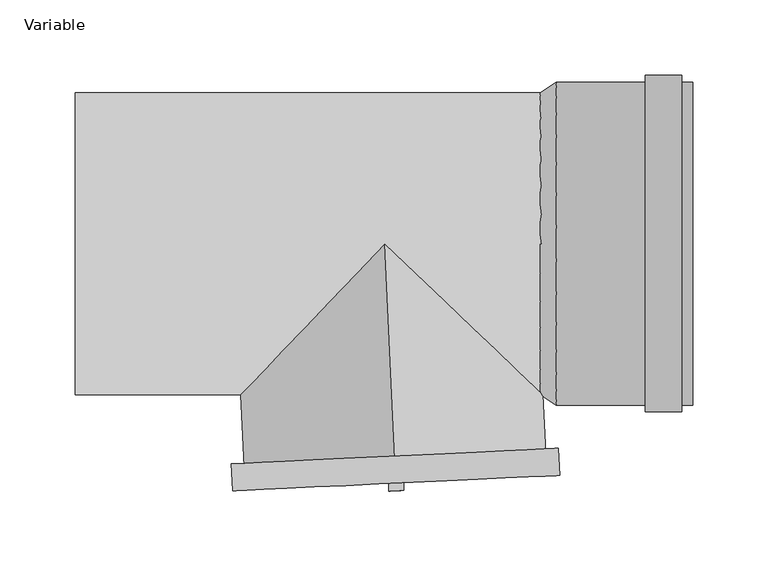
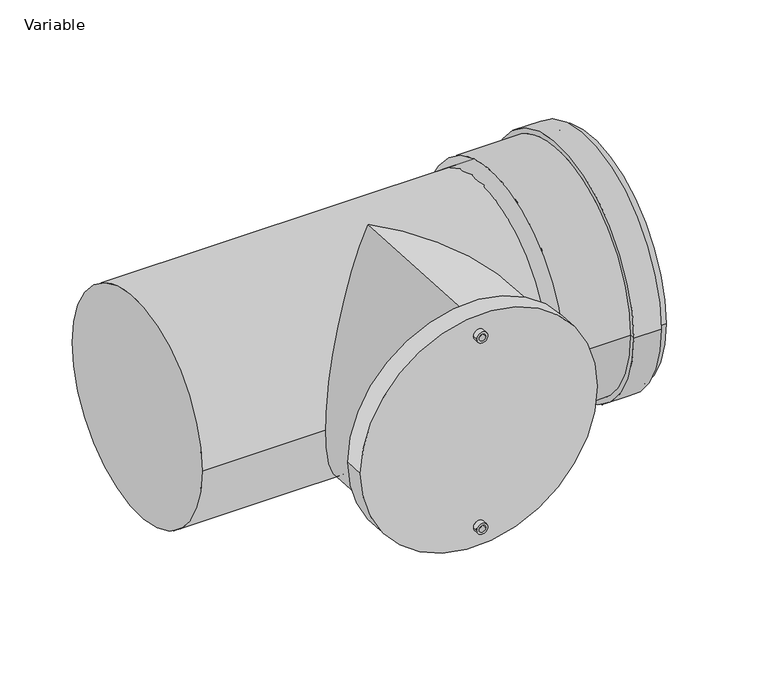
"""IFC4 building model written with IfcOpenShell, lengths in millimetres: pipe fitting geometry, AliaxisFR_Friaphon_TeeAccessPlug_FR : Variable."""

from ifc_helpers import new_model, si_unit, point, frame, frame_2d, origin, place, context, project, spatial, polyline, circle_curve, ellipse_curve, trimmed, segment, composite_curve, outline, extrude, source, transform, mapped, element, save
from ifc_brep_helpers import plane_surface, cylinder_surface, revolved_surface, advanced_brep


def variable_6f8dda88(model_context):
    return source(origin(), model_context, "Body", "SolidModel", [
        extrude(outline(composite_curve([segment(trimmed(circle_curve(frame_2d((0.0, -5.0)), 5.0), [point((0.0, -10.0))], [point((0.0, 0.0))], False, "CARTESIAN"), True, "CONTINUOUS"), segment(trimmed(circle_curve(frame_2d((0.0, -5.0)), 5.0), [point((0.0, 0.0))], [point((0.0, -10.0))], False, "CARTESIAN"), True, "CONTINUOUS")], self_intersect=False), holes=[composite_curve([segment(trimmed(circle_curve(frame_2d((0.0, -5.0)), 3.0), [point((0.0, -8.0))], [point((0.0, -2.0))], True, "CARTESIAN"), True, "CONTINUOUS"), segment(trimmed(circle_curve(frame_2d((0.0, -5.0)), 3.0), [point((0.0, -2.0))], [point((0.0, -8.0))], True, "CARTESIAN"), True, "CONTINUOUS")], self_intersect=False)]), frame((12.714019, -163.457546, 90.0), z_axis=(-0.04710645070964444, 0.9988898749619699, 0.0), x_axis=(0.0, 0.0, 1.0)), (0.0, 0.0, 1.0), 5.0),
        extrude(outline(composite_curve([segment(trimmed(circle_curve(frame_2d((-180.0, -5.0)), 5.0), [point((-180.0, -10.0))], [point((-180.0, 0.0))], False, "CARTESIAN"), True, "CONTINUOUS"), segment(trimmed(circle_curve(frame_2d((-180.0, -5.0)), 5.0), [point((-180.0, 0.0))], [point((-180.0, -10.0))], False, "CARTESIAN"), True, "CONTINUOUS")], self_intersect=False), holes=[composite_curve([segment(trimmed(circle_curve(frame_2d((-180.0, -5.0)), 3.0), [point((-180.0, -8.0))], [point((-180.0, -2.0))], True, "CARTESIAN"), True, "CONTINUOUS"), segment(trimmed(circle_curve(frame_2d((-180.0, -5.0)), 3.0), [point((-180.0, -2.0))], [point((-180.0, -8.0))], True, "CARTESIAN"), True, "CONTINUOUS")], self_intersect=False)]), frame((12.714019, -163.457546, 90.0), z_axis=(-0.04710645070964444, 0.9988898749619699, 0.0), x_axis=(0.0, 0.0, 1.0)), (0.0, 0.0, 1.0), 5.0),
        advanced_brep(
        [(-100.8955141, -163.8096788, 0.0), (115.8635888, -153.587579, 0.0), (-101.7434302, -145.829661, 0.0), (115.0156727, -135.6075612, 0.0), (-93.2528663, -145.4292562, 0.0), (106.5251087, -136.0079661, 0.0), (-92.4932747, -161.5363554, 0.0), (107.2847003, -152.1150653, 0.0)],
        [
            (0, 1, circle_curve(frame((7.4840374, -158.6986289, 0.0), z_axis=(0.04710645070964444, -0.9988898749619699, 0.0), x_axis=(0.9988898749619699, 0.04710645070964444, 0.0)), 108.5)),
            (1, 0, circle_curve(frame((7.4840374, -158.6986289, 0.0), z_axis=(0.04710645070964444, -0.9988898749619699, 0.0), x_axis=(0.9988898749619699, 0.04710645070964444, 0.0)), 108.5)),
            (2, 3, circle_curve(frame((6.6361212, -140.7186111, 0.0), z_axis=(-0.04710645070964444, 0.9988898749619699, 0.0), x_axis=(0.9988898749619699, 0.04710645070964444, 0.0)), 108.5)),
            (3, 2, circle_curve(frame((6.6361212, -140.7186111, 0.0), z_axis=(-0.04710645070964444, 0.9988898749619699, 0.0), x_axis=(0.9988898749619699, 0.04710645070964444, 0.0)), 108.5)),
            (4, 5, circle_curve(frame((6.6361212, -140.7186111, 0.0), z_axis=(0.04710645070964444, -0.9988898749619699, 0.0), x_axis=(0.9988898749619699, 0.04710645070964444, 0.0)), 100.0)),
            (5, 4, circle_curve(frame((6.6361212, -140.7186111, 0.0), z_axis=(0.04710645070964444, -0.9988898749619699, 0.0), x_axis=(0.9988898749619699, 0.04710645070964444, 0.0)), 100.0)),
            (0, 2),
            (3, 1),
            (6, 7, circle_curve(frame((7.3957128, -156.8257104, 0.0), z_axis=(-0.04710645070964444, 0.9988898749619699, 0.0), x_axis=(0.9988898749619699, 0.04710645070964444, 0.0)), 100.0)),
            (7, 6, circle_curve(frame((7.3957128, -156.8257104, 0.0), z_axis=(-0.04710645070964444, 0.9988898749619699, 0.0), x_axis=(0.9988898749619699, 0.04710645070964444, 0.0)), 100.0)),
            (7, 5),
            (4, 6),
        ],
        [
            plane_surface(frame((115.8635888, -153.587579, 0.0), z_axis=(0.04710645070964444, -0.9988898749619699, 0.0), x_axis=(0.0, 0.0, 1.0))),
            plane_surface(frame((115.0156727, -135.6075612, 0.0), z_axis=(-0.04710645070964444, 0.9988898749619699, 0.0), x_axis=(0.0, 0.0, -1.0))),
            cylinder_surface(frame((6.6361212, -140.7186111, 0.0), z_axis=(0.04710645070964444, -0.9988898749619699, 0.0), x_axis=(0.9988898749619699, 0.04710645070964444, 0.0)), 108.5),
            plane_surface(frame((107.2847003, -152.1150653, 0.0), z_axis=(-0.04710645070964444, 0.9988898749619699, 0.0), x_axis=(0.0, 0.0, 1.0))),
            revolved_surface(polyline([(107.28470021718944, -152.11506533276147, 0.0), (106.525108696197, -136.00796602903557, 0.0)]), (6.6361212, -140.7186111, 0.0), (0.04710645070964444, -0.9988898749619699, 0.0)),
        ],
        [
            (0, [[1, 2]]),
            (1, [[3, 4], [5, 6]]),
            (2, [[-1, 7, -4, 8]]),
            (2, [[-2, -8, -3, -7]]),
            (3, [[9, 10]]),
            (4, [[-10, 11, -5, 12]]),
            (4, [[-9, -12, -6, -11]]),
        ],
    ),
        advanced_brep(
        [(204.0, -107.0, 0.0), (204.0, 107.0, 0.0), (204.0, 100.0, 0.0), (204.0, -100.0, 0.0), (172.5, -111.5, 0.0), (172.5, 111.5, 0.0), (197.0, 111.5, 0.0), (197.0, -111.5, 0.0), (172.5, -107.0, 0.0), (172.5, 107.0, 0.0), (113.5, -107.0, 0.0), (113.5, 107.0, 0.0), (103.0, 100.0, 0.0), (103.0, -100.0, 0.0), (197.0, -107.0, 0.0), (197.0, 107.0, 0.0)],
        [
            (0, 1, circle_curve(frame((204.0, 0.0, 0.0), z_axis=(1.0, 0.0, 0.0), x_axis=(0.0, 1.0, 0.0)), 107.0)),
            (1, 2),
            (2, 3, circle_curve(frame((204.0, 0.0, 0.0), z_axis=(-1.0, 0.0, 0.0), x_axis=(0.0, 1.0, 0.0)), 100.0)),
            (3, 0),
            (1, 0, circle_curve(frame((204.0, 0.0, 0.0), z_axis=(1.0, 0.0, 0.0), x_axis=(0.0, 1.0, 0.0)), 107.0)),
            (3, 2, circle_curve(frame((204.0, 0.0, 0.0), z_axis=(-1.0, 0.0, 0.0), x_axis=(0.0, 1.0, 0.0)), 100.0)),
            (4, 5, circle_curve(frame((172.5, 0.0, 0.0), z_axis=(1.0, 0.0, 0.0), x_axis=(0.0, 1.0, 0.0)), 111.5)),
            (5, 6),
            (6, 7, circle_curve(frame((197.0, 0.0, 0.0), z_axis=(-1.0, 0.0, 0.0), x_axis=(0.0, 1.0, 0.0)), 111.5)),
            (7, 4),
            (5, 4, circle_curve(frame((172.5, 0.0, 0.0), z_axis=(1.0, 0.0, 0.0), x_axis=(0.0, 1.0, 0.0)), 111.5)),
            (7, 6, circle_curve(frame((197.0, 0.0, 0.0), z_axis=(-1.0, 0.0, 0.0), x_axis=(0.0, 1.0, 0.0)), 111.5)),
            (8, 9, circle_curve(frame((172.5, 0.0, 0.0), z_axis=(1.0, 0.0, 0.0), x_axis=(0.0, 1.0, 0.0)), 107.0)),
            (9, 5),
            (4, 8),
            (9, 8, circle_curve(frame((172.5, 0.0, 0.0), z_axis=(1.0, 0.0, 0.0), x_axis=(0.0, 1.0, 0.0)), 107.0)),
            (10, 11, circle_curve(frame((113.5, 0.0, 0.0), z_axis=(1.0, 0.0, 0.0), x_axis=(0.0, 1.0, 0.0)), 107.0)),
            (11, 9),
            (8, 10),
            (11, 10, circle_curve(frame((113.5, 0.0, 0.0), z_axis=(1.0, 0.0, 0.0), x_axis=(0.0, 1.0, 0.0)), 107.0)),
            (2, 12),
            (12, 13, circle_curve(frame((103.0, 0.0, 0.0), z_axis=(-1.0, 0.0, 0.0), x_axis=(0.0, 1.0, 0.0)), 100.0)),
            (13, 3),
            (13, 12, circle_curve(frame((103.0, 0.0, 0.0), z_axis=(-1.0, 0.0, 0.0), x_axis=(0.0, 1.0, 0.0)), 100.0)),
            (12, 11),
            (10, 13),
            (14, 15, circle_curve(frame((197.0, 0.0, 0.0), z_axis=(1.0, 0.0, 0.0), x_axis=(0.0, 1.0, 0.0)), 107.0)),
            (15, 1),
            (0, 14),
            (15, 14, circle_curve(frame((197.0, 0.0, 0.0), z_axis=(1.0, 0.0, 0.0), x_axis=(0.0, 1.0, 0.0)), 107.0)),
            (6, 15),
            (14, 7),
        ],
        [
            plane_surface(frame((204.0, 0.0, 0.0), z_axis=(1.0, 0.0, 0.0), x_axis=(0.0, 1.0, 0.0))),
            cylinder_surface(frame((103.0, 0.0, 0.0), z_axis=(-1.0, 0.0, 0.0), x_axis=(0.0, 1.0, 0.0)), 111.5),
            plane_surface(frame((172.5, 0.0, 0.0), z_axis=(-1.0, 0.0, 0.0), x_axis=(0.0, 1.0, 0.0))),
            cylinder_surface(frame((103.0, 0.0, 0.0), z_axis=(-1.0, 0.0, 0.0), x_axis=(0.0, 1.0, 0.0)), 107.0),
            revolved_surface(polyline([(103.0, 100.0, 0.0), (204.0, 100.0, 0.0)]), (103.0, 0.0, 0.0), (-1.0, 0.0, 0.0)),
            revolved_surface(polyline([(113.5, 107.0, 0.0), (103.0, 100.0, 0.0)]), (103.0, 0.0, 0.0), (-1.0, 0.0, 0.0)),
            plane_surface(frame((197.0, 0.0, 0.0), z_axis=(1.0, 0.0, 0.0), x_axis=(0.0, 1.0, 0.0))),
        ],
        [
            (0, [[1, 2, 3, 4]]),
            (0, [[5, -4, 6, -2]]),
            (1, [[7, 8, 9, 10]]),
            (1, [[11, -10, 12, -8]]),
            (2, [[13, 14, -7, 15]]),
            (2, [[16, -15, -11, -14]]),
            (3, [[17, 18, -13, 19]]),
            (3, [[20, -19, -16, -18]]),
            (4, [[-3, 21, 22, 23]]),
            (4, [[-6, -23, 24, -21]]),
            (5, [[-22, 25, -17, 26]]),
            (5, [[-24, -26, -20, -25]]),
            (3, [[27, 28, -1, 29]]),
            (3, [[30, -29, -5, -28]]),
            (6, [[-9, 31, -27, 32]]),
            (6, [[-12, -32, -30, -31]]),
        ],
    ),
        advanced_brep(
        [(110.0, -100.0, 0.0), (110.0, 100.0, 0.0), (-205.0, -100.0, 0.0), (-205.0, 100.0, 0.0), (104.8270162, -100.0, 0.0), (0.0, 0.0, -100.0), (-95.3952556, -100.0, 0.0), (0.0, 0.0, 100.0), (7.3957128, -156.8257104, -100.0), (7.3957128, -156.8257104, 100.0)],
        [
            (0, 1, circle_curve(frame((110.0, 0.0, 0.0), z_axis=(1.0, 0.0, 0.0), x_axis=(0.0, 1.0, 0.0)), 100.0)),
            (1, 0, circle_curve(frame((110.0, 0.0, 0.0), z_axis=(1.0, 0.0, 0.0), x_axis=(0.0, 1.0, 0.0)), 100.0)),
            (2, 3, circle_curve(frame((-205.0, 0.0, 0.0), z_axis=(-1.0, 0.0, 0.0), x_axis=(0.0, 1.0, 0.0)), 100.0)),
            (3, 2, circle_curve(frame((-205.0, 0.0, 0.0), z_axis=(-1.0, 0.0, 0.0), x_axis=(0.0, 1.0, 0.0)), 100.0)),
            (0, 4),
            (4, 5, ellipse_curve(frame((0.0, 0.0, 0.0), z_axis=(0.6902512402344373, 0.7235697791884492, 0.0), x_axis=(0.7235697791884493, -0.6902512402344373, 0.0)), 144.874785, 100.0)),
            (5, 6, ellipse_curve(frame((0.0, 0.0, 0.0), z_axis=(-0.7235697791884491, 0.6902512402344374, 0.0), x_axis=(0.6902512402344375, 0.7235697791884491, 0.0)), 138.2036714, 100.0)),
            (6, 2),
            (3, 1),
            (6, 7, ellipse_curve(frame((0.0, 0.0, 0.0), z_axis=(-0.7235697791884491, 0.6902512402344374, 0.0), x_axis=(0.6902512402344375, 0.7235697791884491, 0.0)), 138.2036714, 100.0)),
            (7, 4, ellipse_curve(frame((0.0, 0.0, 0.0), z_axis=(0.6902512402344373, 0.7235697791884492, 0.0), x_axis=(0.7235697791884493, -0.6902512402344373, 0.0)), 144.874785, 100.0)),
            (8, 9, circle_curve(frame((7.3957128, -156.8257104, 0.0), z_axis=(0.04710645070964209, -0.9988898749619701, 0.0), x_axis=(0.0, 0.0, 1.0)), 100.0)),
            (9, 8, circle_curve(frame((7.3957128, -156.8257104, 0.0), z_axis=(0.04710645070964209, -0.9988898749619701, 0.0), x_axis=(0.0, 0.0, 1.0)), 100.0)),
            (8, 5),
            (7, 9),
        ],
        [
            plane_surface(frame((110.0, 100.0, 0.0), z_axis=(1.0, 0.0, 0.0), x_axis=(0.0, 0.0, 1.0))),
            plane_surface(frame((-205.0, 100.0, 0.0), z_axis=(-1.0, 0.0, 0.0), x_axis=(0.0, 0.0, -1.0))),
            cylinder_surface(frame((-205.0, 0.0, 0.0), z_axis=(1.0, 0.0, 0.0), x_axis=(0.0, 1.0, 0.0)), 100.0),
            plane_surface(frame((7.3957128, -156.8257104, 100.0), z_axis=(0.04710645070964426, -0.9988898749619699, 0.0), x_axis=(-0.9988898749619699, -0.04710645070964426, 0.0))),
            cylinder_surface(frame((7.3957128, -156.8257104, 0.0), z_axis=(-0.04710645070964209, 0.9988898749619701, 0.0), x_axis=(0.0, 0.0, 1.0)), 100.0),
        ],
        [
            (0, [[1, 2]]),
            (1, [[3, 4]]),
            (2, [[-1, 5, 6, 7, 8, -4, 9]]),
            (2, [[-2, -9, -3, -8, 10, 11, -5]]),
            (3, [[12, 13]]),
            (4, [[-12, 14, -6, -11, 15]]),
            (4, [[-13, -15, -10, -7, -14]]),
        ],
    ),
    ])


if __name__ == "__main__":
    model = new_model("IFC4")
    model_context = context("Model", 3, world=origin())
    ifc_project = project(units=[si_unit("LENGTHUNIT", "METRE", prefix="MILLI")], contexts=[model_context])
    site = spatial("IfcSite", under=ifc_project)
    building = spatial("IfcBuilding", under=site)
    placement = place(None, origin())
    variable_shape = variable_6f8dda88(model_context)
    element("IfcPipeFitting", 1, ObjectType="AliaxisFR_Friaphon_TeeAccessPlug_FR : Variable", at=placement, inside=building, context=model_context, shape_type="MappedRepresentation", body=[
        mapped(variable_shape, transform((0.0, 0.0, 0.0), x_axis=(1.0, 0.0, 0.0), y_axis=(0.0, 1.0, 0.0), z_axis=(0.0, 0.0, 1.0))),
    ])
    save(model, "model.ifc")
